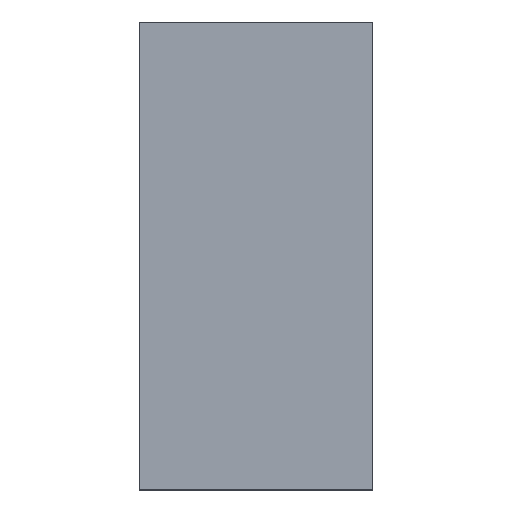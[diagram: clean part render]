
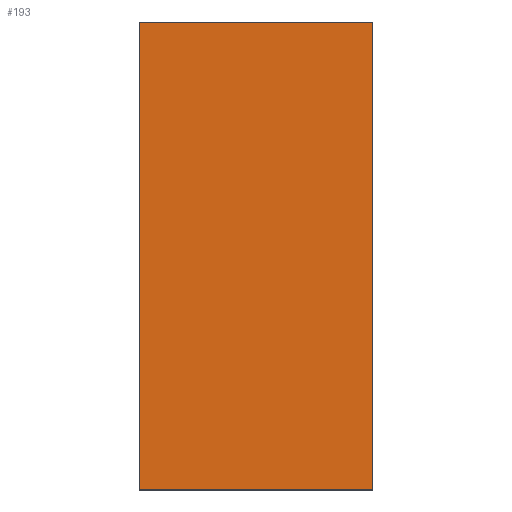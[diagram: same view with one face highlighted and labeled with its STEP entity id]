
A CAD part, top view. The second image highlights one B-rep face of the part: STEP entity #193.
In plain terms, the highlighted planar face has unit normal (0, 0, 1).
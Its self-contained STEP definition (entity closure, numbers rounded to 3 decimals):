
#81 = VECTOR ( 'NONE', #1054, 1000. ) ;
#123 = ORIENTED_EDGE ( 'NONE', *, *, #1431, .T. ) ;
#133 = CARTESIAN_POINT ( 'NONE',  ( 199.5, -399.5, 4. ) ) ;
#142 = VECTOR ( 'NONE', #265, 1000. ) ;
#144 = ORIENTED_EDGE ( 'NONE', *, *, #811, .T. ) ;
#152 = LINE ( 'NONE', #1402, #81 ) ;
#193 = ADVANCED_FACE ( 'NONE', ( #1166 ), #1427, .F. ) ;
#223 = VECTOR ( 'NONE', #578, 1000. ) ;
#265 = DIRECTION ( 'NONE',  ( 0., 1., 0. ) ) ;
#271 = EDGE_LOOP ( 'NONE', ( #144, #123, #464, #629 ) ) ;
#339 = CARTESIAN_POINT ( 'NONE',  ( -199.5, -399.5, 4. ) ) ;
#353 = AXIS2_PLACEMENT_3D ( 'NONE', #1081, #634, #936 ) ;
#386 = CARTESIAN_POINT ( 'NONE',  ( -199.5, 399.5, 4. ) ) ;
#408 = VECTOR ( 'NONE', #636, 1000. ) ;
#464 = ORIENTED_EDGE ( 'NONE', *, *, #1074, .T. ) ;
#567 = LINE ( 'NONE', #1348, #223 ) ;
#578 = DIRECTION ( 'NONE',  ( 1., 0., 0. ) ) ;
#592 = VERTEX_POINT ( 'NONE', #675 ) ;
#629 = ORIENTED_EDGE ( 'NONE', *, *, #1200, .T. ) ;
#634 = DIRECTION ( 'NONE',  ( 0., 0., -1. ) ) ;
#636 = DIRECTION ( 'NONE',  ( 0., -1., 0. ) ) ;
#643 = VERTEX_POINT ( 'NONE', #339 ) ;
#675 = CARTESIAN_POINT ( 'NONE',  ( 199.5, 399.5, 4. ) ) ;
#743 = LINE ( 'NONE', #1069, #408 ) ;
#786 = VERTEX_POINT ( 'NONE', #133 ) ;
#811 = EDGE_CURVE ( 'NONE', #786, #592, #1272, .T. ) ;
#885 = VERTEX_POINT ( 'NONE', #386 ) ;
#936 = DIRECTION ( 'NONE',  ( -1., 0., 0. ) ) ;
#1054 = DIRECTION ( 'NONE',  ( -1., 0., 0. ) ) ;
#1069 = CARTESIAN_POINT ( 'NONE',  ( -199.5, 0., 4. ) ) ;
#1074 = EDGE_CURVE ( 'NONE', #885, #643, #743, .T. ) ;
#1081 = CARTESIAN_POINT ( 'NONE',  ( 0., 0., 4. ) ) ;
#1135 = CARTESIAN_POINT ( 'NONE',  ( 199.5, 0., 4. ) ) ;
#1166 = FACE_OUTER_BOUND ( 'NONE', #271, .T. ) ;
#1200 = EDGE_CURVE ( 'NONE', #643, #786, #567, .T. ) ;
#1272 = LINE ( 'NONE', #1135, #142 ) ;
#1348 = CARTESIAN_POINT ( 'NONE',  ( 0., -399.5, 4. ) ) ;
#1402 = CARTESIAN_POINT ( 'NONE',  ( 0., 399.5, 4. ) ) ;
#1427 = PLANE ( 'NONE',  #353 ) ;
#1431 = EDGE_CURVE ( 'NONE', #592, #885, #152, .T. ) ;
